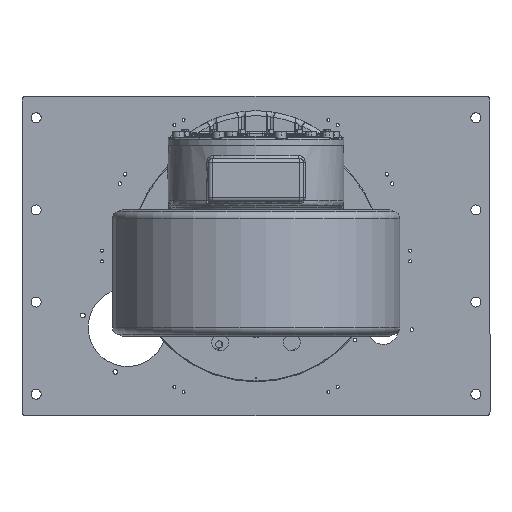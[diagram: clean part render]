
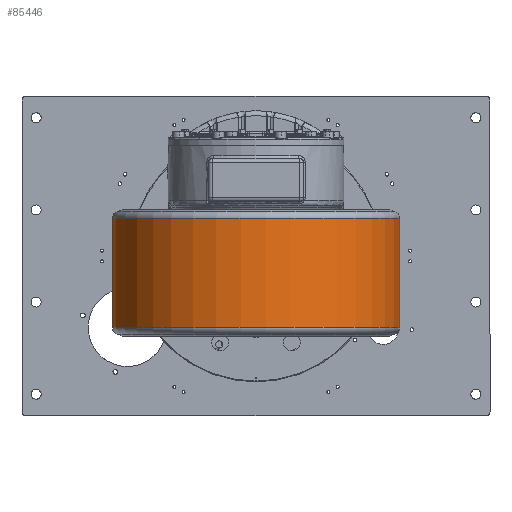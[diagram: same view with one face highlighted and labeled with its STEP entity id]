
A CAD part, front view. The second image highlights one B-rep face of the part: STEP entity #85446.
In plain terms, the highlighted cylindrical face has radius 203 mm (diameter 406 mm), a full revolution.
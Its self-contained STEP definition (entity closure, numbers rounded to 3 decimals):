
#869 = AXIS2_PLACEMENT_3D ( 'NONE', #146523, #18916, #6742 ) ;
#6742 = DIRECTION ( 'NONE',  ( -0.407, 0.913, 0. ) ) ;
#10849 = DIRECTION ( 'NONE',  ( -0.407, 0.913, 0. ) ) ;
#13582 = ORIENTED_EDGE ( 'NONE', *, *, #41056, .T. ) ;
#18916 = DIRECTION ( 'NONE',  ( 0., 0., 1. ) ) ;
#19294 = DIRECTION ( 'NONE',  ( 0., 0., 1. ) ) ;
#29873 = CIRCLE ( 'NONE', #78270, 203. ) ;
#31776 = CARTESIAN_POINT ( 'NONE',  ( -1065.185, -133.435, 492.381 ) ) ;
#37163 = FACE_OUTER_BOUND ( 'NONE', #38451, .T. ) ;
#38451 = EDGE_LOOP ( 'NONE', ( #124121 ) ) ;
#41056 = EDGE_CURVE ( 'NONE', #58124, #58124, #29873, .T. ) ;
#41642 = EDGE_CURVE ( 'NONE', #137965, #137965, #56726, .T. ) ;
#47070 = AXIS2_PLACEMENT_3D ( 'NONE', #31776, #113772, #114511 ) ;
#48643 = EDGE_LOOP ( 'NONE', ( #13582 ) ) ;
#56655 = CARTESIAN_POINT ( 'NONE',  ( -1147.852, 51.97, 492.381 ) ) ;
#56726 = CIRCLE ( 'NONE', #47070, 203. ) ;
#58124 = VERTEX_POINT ( 'NONE', #140952 ) ;
#78270 = AXIS2_PLACEMENT_3D ( 'NONE', #123384, #19294, #10849 ) ;
#85446 = ADVANCED_FACE ( 'NONE', ( #37163, #86537 ), #132903, .T. ) ;
#86537 = FACE_OUTER_BOUND ( 'NONE', #48643, .T. ) ;
#113772 = DIRECTION ( 'NONE',  ( 0., 0., 1. ) ) ;
#114511 = DIRECTION ( 'NONE',  ( -0.407, 0.913, 0. ) ) ;
#123384 = CARTESIAN_POINT ( 'NONE',  ( -1065.185, -133.435, 338.475 ) ) ;
#124121 = ORIENTED_EDGE ( 'NONE', *, *, #41642, .F. ) ;
#132903 = CYLINDRICAL_SURFACE ( 'NONE', #869, 203. ) ;
#137965 = VERTEX_POINT ( 'NONE', #56655 ) ;
#140952 = CARTESIAN_POINT ( 'NONE',  ( -1147.852, 51.97, 338.475 ) ) ;
#146523 = CARTESIAN_POINT ( 'NONE',  ( -1065.185, -133.435, 415.428 ) ) ;
